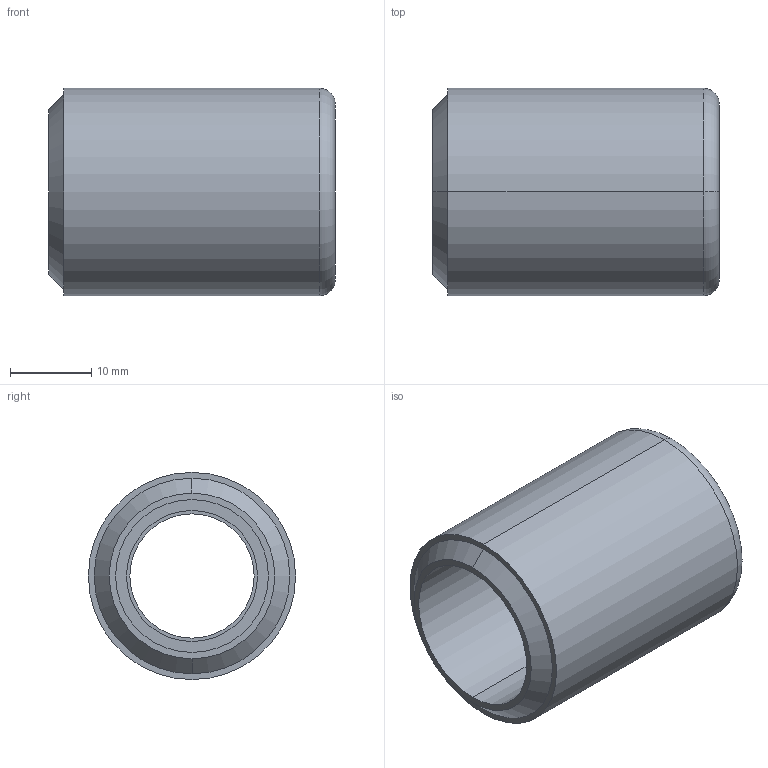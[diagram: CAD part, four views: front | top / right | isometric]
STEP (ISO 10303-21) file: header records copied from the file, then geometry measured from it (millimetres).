
FILE_DESCRIPTION (( 'STEP AP214' ), '1' );
FILE_NAME ('CR-INFV-02-03.STEP', '2020-12-10T16:57:15', ( '' ), ( '' ), 'SwSTEP 2.0', 'SolidWorks 2019', '' );
FILE_SCHEMA (( 'AUTOMOTIVE_DESIGN' ));
Length unit declared in the file: inch
Products named in the file (1): CR-INFV-02-03
Bounding box: 35.29 x 25.53 x 25.53 mm (x, y, z)
Volume: 9457.2 mm3; surface area: 5234.4 mm2
Topology: 1 solids, 1 shells, 20 faces, 40 edges, 26 vertices
Faces by surface type: cylinder 10, plane 6, cone 2, torus 2
Entity records: 840 total; most frequent: DIRECTION 110, CARTESIAN_POINT 87, ORIENTED_EDGE 80, AXIS2_PLACEMENT_3D 49, EDGE_CURVE 40, CIRCLE 28, EDGE_LOOP 26, VERTEX_POINT 26
